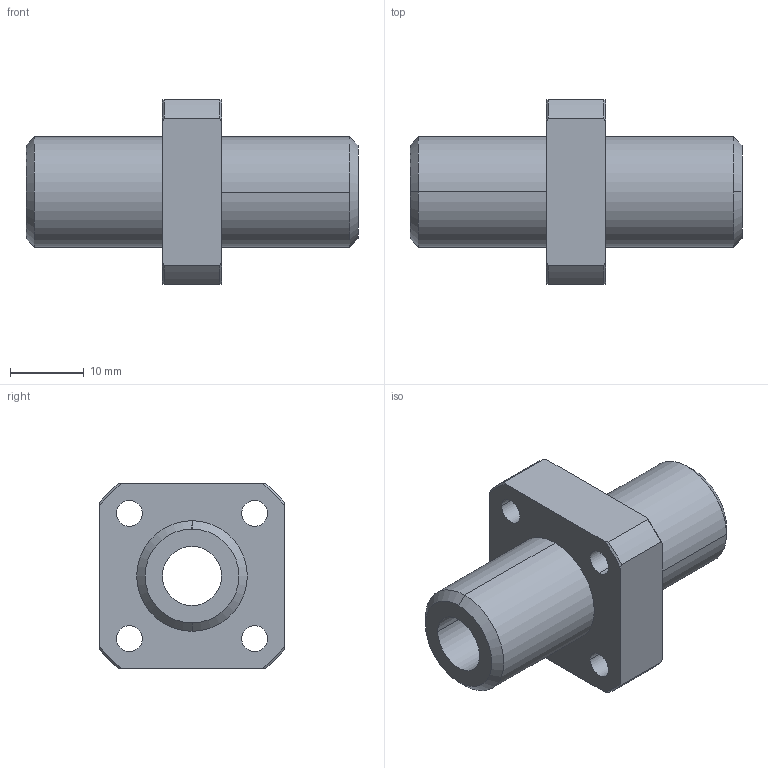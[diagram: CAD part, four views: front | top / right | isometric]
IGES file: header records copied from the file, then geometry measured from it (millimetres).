
Start section: 3D InterOp IGES (Version 21 0 1), Spatial Corp. Copyright (c) 1999-2007.
Global section: file name: CFPJ08.igs; native system: Spatial Corp.; preprocessor: 3D InterOp GENERIC/IGES 3.0; author: Noname; organization: Noname; date: 20220324.130926; units: millimetre
Bounding box: 45 x 25 x 25 mm (x, y, z)
Surface area: 5054.3 mm2 (no closed solid volume)
Topology: 0 solids, 0 shells, 50 faces, 248 edges, 248 vertices
Faces by surface type: revolution 38, extrusion 12
